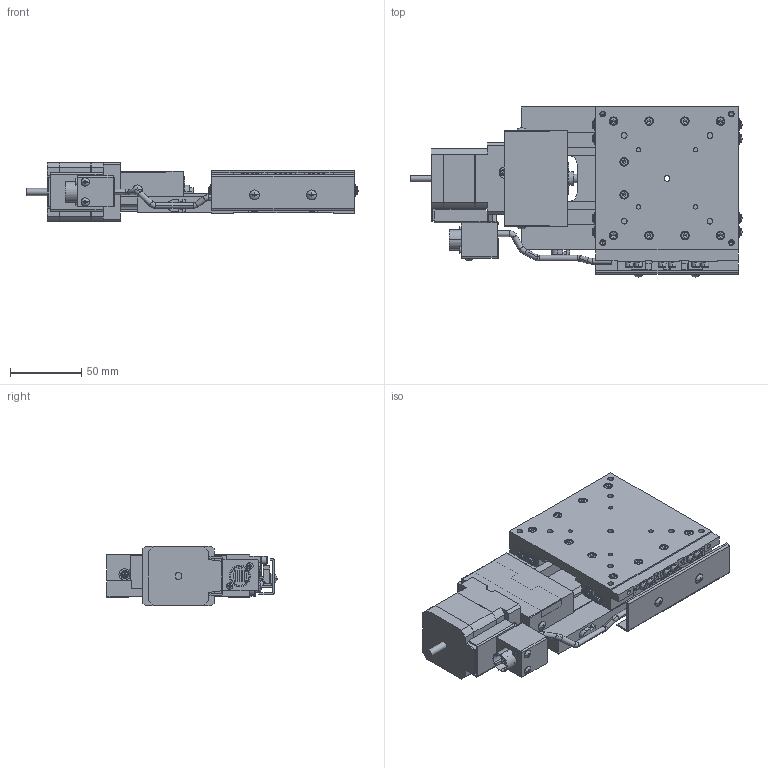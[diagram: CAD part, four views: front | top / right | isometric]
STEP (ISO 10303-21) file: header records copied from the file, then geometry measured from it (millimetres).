
FILE_DESCRIPTION (( 'STEP AP203' ), '1' );
FILE_NAME ('XA10F-R202.STEP', '2019-03-06T08:34:34', ( '' ), ( '' ), 'SwSTEP 2.0', 'SolidWorks 2018', '' );
FILE_SCHEMA (( 'CONFIG_CONTROL_DESIGN' ));
Length unit declared in the file: millimetre
Products named in the file (3): XA10F-R202; table; base
Assembly tree (2 placements, depth 2):
  XA10F-R202
    table
    base
Bounding box: 232.48 x 119.09 x 42 mm (x, y, z)
Volume: 439799.9 mm3; surface area: 128766.4 mm2
Topology: 2 solids, 2 shells, 2047 faces, 5098 edges, 3129 vertices
Faces by surface type: plane 1237, cylinder 480, cone 260, sphere 36, torus 34
Entity records: 61089 total; most frequent: CARTESIAN_POINT 11006, DIRECTION 10850, ORIENTED_EDGE 10036, EDGE_CURVE 5018, AXIS2_PLACEMENT_3D 3853, LINE 3144, VECTOR 3144, VERTEX_POINT 3129
